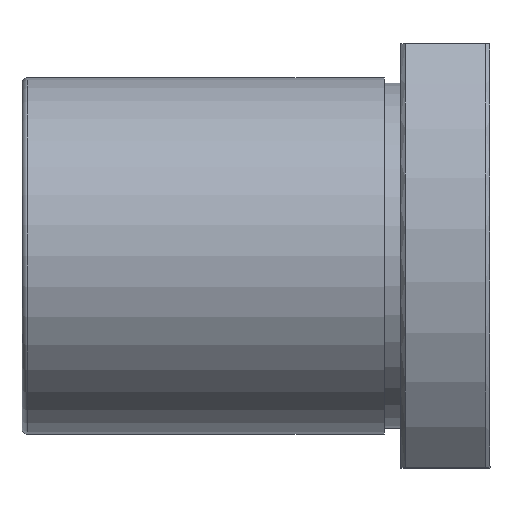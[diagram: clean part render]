
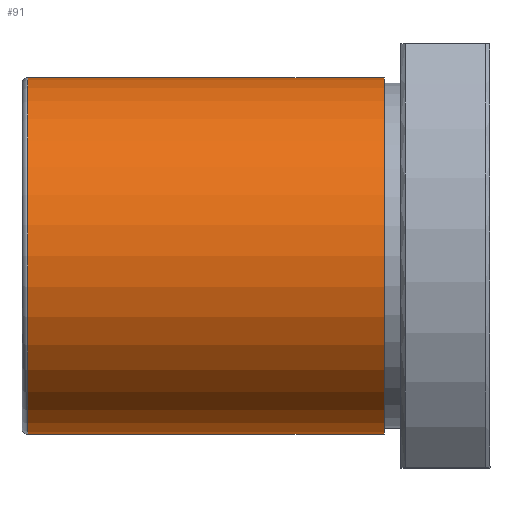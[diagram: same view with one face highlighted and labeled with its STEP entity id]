
A CAD part, top view. The second image highlights one B-rep face of the part: STEP entity #91.
In plain terms, the highlighted cylindrical face has radius 16 mm (diameter 32 mm), a full revolution.
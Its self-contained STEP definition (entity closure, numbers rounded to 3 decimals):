
#91=ADVANCED_FACE('',(#153,#154),#155,.T.);
#153=FACE_OUTER_BOUND('',#237,.T.);
#154=FACE_OUTER_BOUND('',#238,.T.);
#155=CYLINDRICAL_SURFACE('',#239,16.0);
#237=EDGE_LOOP('',(#369));
#238=EDGE_LOOP('',(#370));
#239=AXIS2_PLACEMENT_3D('',#371,#372,#373);
#369=ORIENTED_EDGE('',*,*,#483,.F.);
#370=ORIENTED_EDGE('',*,*,#484,.T.);
#371=CARTESIAN_POINT('',(-25.5,0.,0.0));
#372=DIRECTION('',(1.0,-0.0,0.));
#373=DIRECTION('',(0.0,1.0,0.0));
#483=EDGE_CURVE('',#560,#560,#561,.T.);
#484=EDGE_CURVE('',#562,#562,#563,.T.);
#560=VERTEX_POINT('',#669);
#561=CIRCLE('',#670,16.0);
#562=VERTEX_POINT('',#671);
#563=CIRCLE('',#672,16.0);
#669=CARTESIAN_POINT('',(-9.5,16.0,0.0));
#670=AXIS2_PLACEMENT_3D('',#772,#773,#774);
#671=CARTESIAN_POINT('',(-41.5,16.0,0.));
#672=AXIS2_PLACEMENT_3D('',#775,#776,#777);
#772=CARTESIAN_POINT('',(-9.5,0.0,0.0));
#773=DIRECTION('',(1.0,0.0,0.));
#774=DIRECTION('',(0.0,1.0,0.0));
#775=CARTESIAN_POINT('',(-41.5,0.,0.));
#776=DIRECTION('',(1.0,0.0,0.));
#777=DIRECTION('',(0.0,1.0,0.0));
